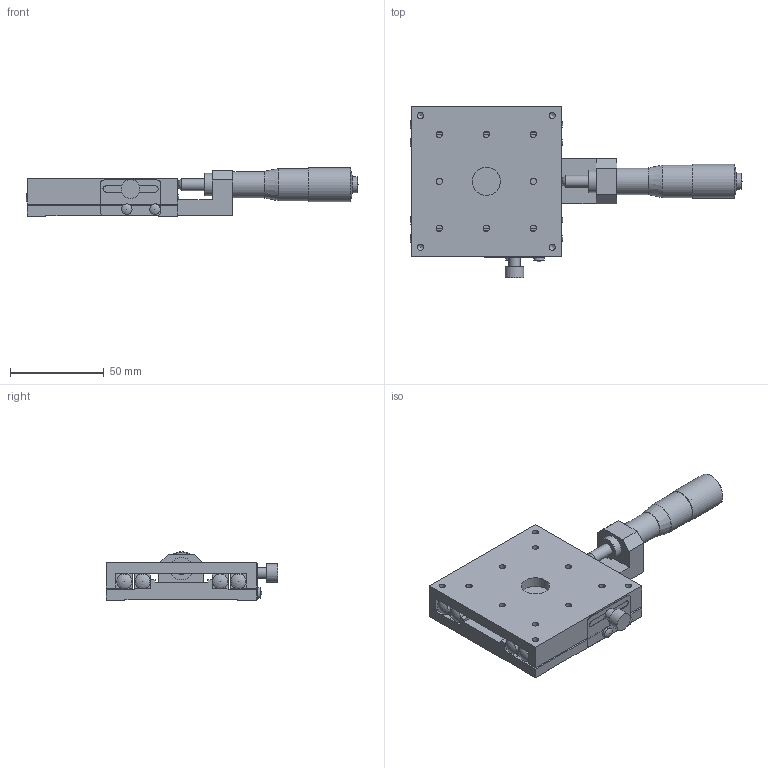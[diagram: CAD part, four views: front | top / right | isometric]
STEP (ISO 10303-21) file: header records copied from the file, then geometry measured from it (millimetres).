
FILE_DESCRIPTION( ( 'STEP AP214' ), '1' );
FILE_NAME( 'C:/Project/3D_B11-80AR-配布-070508.stp', '2007-05-08T10:42:18', ( ' ' ), ( ' ' ), 'XStep 1.0', ' ', ' ' );
FILE_SCHEMA( ( 'automotive_design' ) );
Length unit declared in the file: millimetre
Products named in the file (3): 1; 2; 3
Bounding box: 176.6 x 91.3 x 25.79 mm (x, y, z)
Volume: 130666.5 mm3; surface area: 48321.7 mm2
Topology: 3 solids, 3 shells, 180 faces, 504 edges, 335 vertices
Faces by surface type: plane 97, cylinder 58, cone 13, sphere 12
Full cylindrical faces by diameter (mm): 3 x1, 3.3 x16, 4.5 x4, 5.6 x2, 6 x1, 6.35 x2, 7.998 x8, 8 x4, 8.6 x1, 10 x1, 12 x1, 14 x1, 15 x1, 16.8 x1, 17.2 x1, 18 x1
Entity records: 6556 total; most frequent: CARTESIAN_POINT 885, DIRECTION 860, ORIENTED_EDGE 772, EDGE_CURVE 386, AXIS2_PLACEMENT_3D 297, VERTEX_POINT 286, EDGE_LOOP 280, LINE 266
